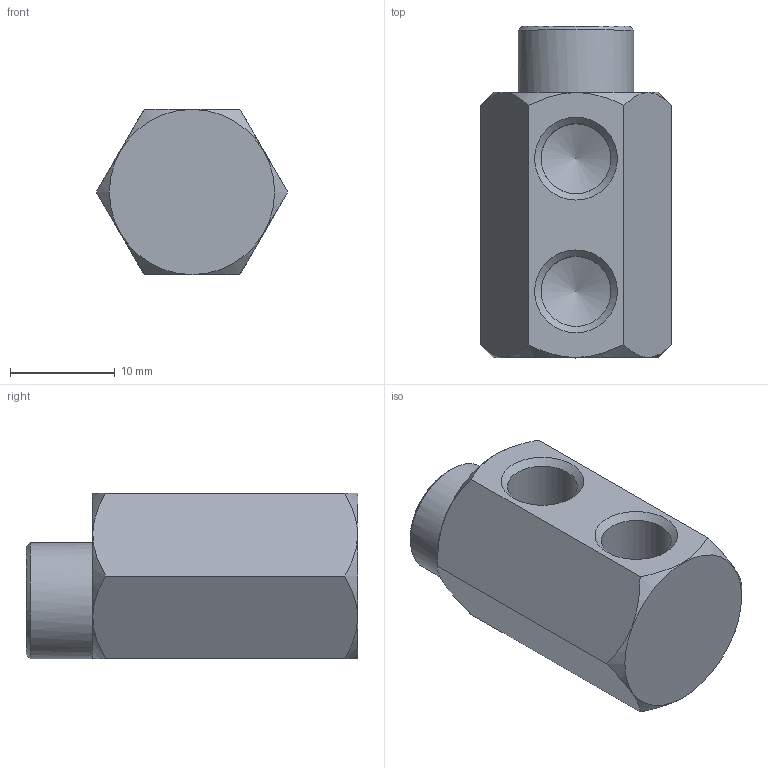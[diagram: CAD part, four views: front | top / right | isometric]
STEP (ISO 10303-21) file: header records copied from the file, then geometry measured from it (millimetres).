
FILE_DESCRIPTION(/* description */ (''),/* implementation_level */ '2;1');
FILE_NAME(/* name */ 'C:/Users/drich/Desktop/HF16H v2.step',/* time_stamp */ '2019-11-18T13:48:44-06:00',/* author */ (''),/* organization */ (''),/* preprocessor_version */ 'ST-DEVELOPER v18',/* originating_system */ 'Autodesk Translation Framework v8.12.0.6',/* authorisation */ '');
FILE_SCHEMA (('AUTOMOTIVE_DESIGN { 1 0 10303 214 3 1 1 }'));
Length unit declared in the file: inch
Products named in the file (2): HF16H; HF16H_1
Assembly tree (1 placements, depth 2):
  HF16H
    HF16H_1
Bounding box: 18.3 x 31.75 x 15.85 mm (x, y, z)
Volume: 4635.8 mm3; surface area: 2788.2 mm2
Topology: 1 solids, 1 shells, 26 faces, 68 edges, 42 vertices
Faces by surface type: plane 10, cone 9, cylinder 7
Full cylindrical faces by diameter (mm): 4.064 x1, 6.697 x5, 11.1 x1
Entity records: 876 total; most frequent: CARTESIAN_POINT 199, DIRECTION 136, ORIENTED_EDGE 132, EDGE_CURVE 66, AXIS2_PLACEMENT_3D 57, VERTEX_POINT 42, EDGE_LOOP 30, FACE_OUTER_BOUND 26
